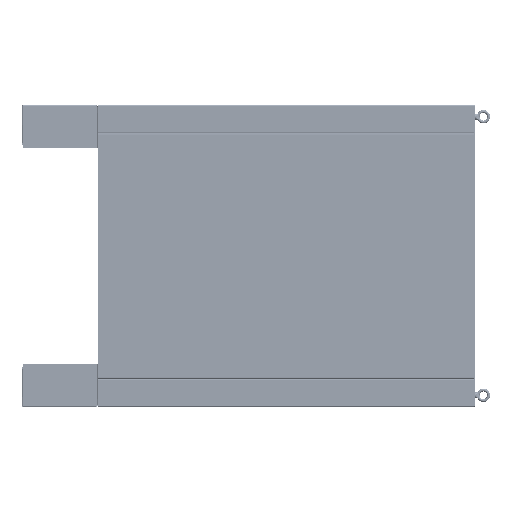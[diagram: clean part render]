
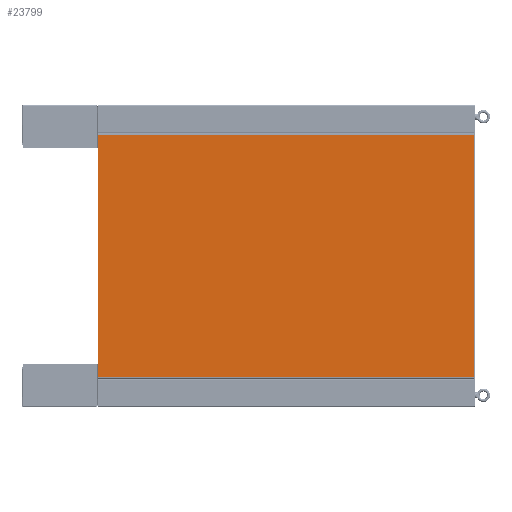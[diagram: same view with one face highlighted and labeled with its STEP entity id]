
A CAD part, left-side view. The second image highlights one B-rep face of the part: STEP entity #23799.
In plain terms, the highlighted planar face has unit normal (-1, 0, 0) as drawn and (0, 1, 0) by its records, which use the part's own axes.
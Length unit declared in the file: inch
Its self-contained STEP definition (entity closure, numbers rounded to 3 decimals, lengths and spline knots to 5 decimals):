
#22448=DIRECTION('',(-1.,0.,0.));
#22449=VECTOR('',#22448,38.622);
#22450=CARTESIAN_POINT('',(19.311,0.,29.896));
#22451=LINE('',#22450,#22449);
#22491=DIRECTION('',(0.,0.,1.));
#22492=VECTOR('',#22491,59.792);
#22493=CARTESIAN_POINT('',(19.311,0.,-29.896));
#22494=LINE('',#22493,#22492);
#22578=DIRECTION('',(-1.,0.,0.));
#22579=VECTOR('',#22578,38.622);
#22580=CARTESIAN_POINT('',(19.311,0.,-29.896));
#22581=LINE('',#22580,#22579);
#22621=DIRECTION('',(0.,0.,-1.));
#22622=VECTOR('',#22621,59.792);
#22623=CARTESIAN_POINT('',(-19.311,0.,29.896));
#22624=LINE('',#22623,#22622);
#23596=CARTESIAN_POINT('',(-19.311,0.,-29.896));
#23597=VERTEX_POINT('',#23596);
#23598=CARTESIAN_POINT('',(-19.311,0.,29.896));
#23599=VERTEX_POINT('',#23598);
#23612=CARTESIAN_POINT('',(19.311,0.,29.896));
#23613=VERTEX_POINT('',#23612);
#23614=CARTESIAN_POINT('',(19.311,0.,-29.896));
#23615=VERTEX_POINT('',#23614);
#23784=CARTESIAN_POINT('',(19.5,0.,29.896));
#23785=DIRECTION('',(0.,1.,0.));
#23786=DIRECTION('',(-1.,0.,0.));
#23787=AXIS2_PLACEMENT_3D('',#23784,#23785,#23786);
#23788=PLANE('',#23787);
#23790=ORIENTED_EDGE('',*,*,#23789,.T.);
#23792=ORIENTED_EDGE('',*,*,#23791,.T.);
#23794=ORIENTED_EDGE('',*,*,#23793,.F.);
#23796=ORIENTED_EDGE('',*,*,#23795,.T.);
#23797=EDGE_LOOP('',(#23790,#23792,#23794,#23796));
#23798=FACE_OUTER_BOUND('',#23797,.F.);
#23789=EDGE_CURVE('',#23613,#23599,#22451,.T.);
#23791=EDGE_CURVE('',#23599,#23597,#22624,.T.);
#23793=EDGE_CURVE('',#23615,#23597,#22581,.T.);
#23795=EDGE_CURVE('',#23615,#23613,#22494,.T.);
#23799=ADVANCED_FACE('',(#23798),#23788,.T.);
